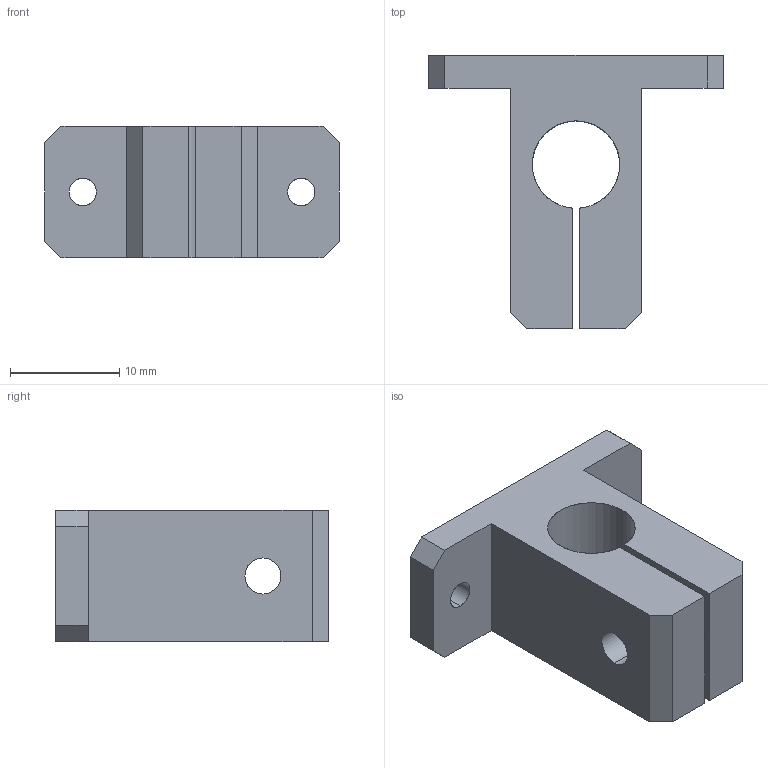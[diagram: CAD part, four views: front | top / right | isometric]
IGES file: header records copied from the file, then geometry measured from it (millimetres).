
Start section: SolidWorks IGES file using analytic representation for surfaces
Global section: file name: C:\Documents and Settings\CAD53\デスクトップ\IGES\N01866-402-1.IGS; native system: SolidWorks 2005 by SolidWorks Corporation; preprocessor: SolidWorks 2005 by SolidWorks Corporation; author: CAD53; date: 070530.113822; units: millimetre
Bounding box: 27 x 25 x 12 mm (x, y, z)
Surface area: 2487.3 mm2 (no closed solid volume)
Topology: 0 solids, 0 shells, 33 faces, 538 edges, 538 vertices
Faces by surface type: bspline 20, revolution 13
